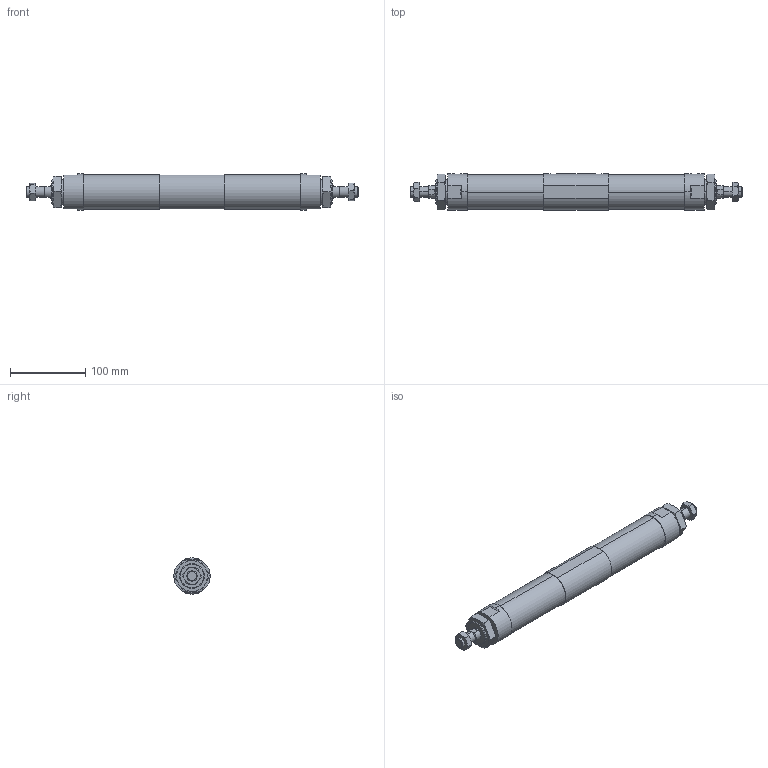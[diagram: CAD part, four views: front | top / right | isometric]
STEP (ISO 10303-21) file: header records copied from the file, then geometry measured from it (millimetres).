
FILE_DESCRIPTION (( 'STEP AP203' ), '1' );
FILE_NAME ('JGD7-40-50-50-N.STEP', '2016-04-19T07:25:53', ( '' ), ( '' ), 'SwSTEP 2.0', 'SolidWorks 2014', '' );
FILE_SCHEMA (( 'CONFIG_CONTROL_DESIGN' ));
Length unit declared in the file: millimetre
Products named in the file (6): M33x2-11mm; 40-50; JGD7-40-50-50-N; M14x1.5-8mm; JGLH2-40B; JGD2-40MI
Assembly tree (9 placements, depth 2):
  JGD7-40-50-50-N
    JGLH2-40B  x2
    40-50  x2
    JGD2-40MI
    M14x1.5-8mm  x2
    M33x2-11mm  x2
Bounding box: 440 x 48 x 48 mm (x, y, z)
Volume: 634209.7 mm3; surface area: 86865.7 mm2
Topology: 9 solids, 9 shells, 172 faces, 376 edges, 222 vertices
Faces by surface type: plane 60, torus 48, cylinder 38, cone 26
Entity records: 3769 total; most frequent: CARTESIAN_POINT 1068, DIRECTION 421, ORIENTED_EDGE 396, EDGE_CURVE 198, AXIS2_PLACEMENT_3D 179, VERTEX_POINT 120, EDGE_LOOP 102, FACE_OUTER_BOUND 93
